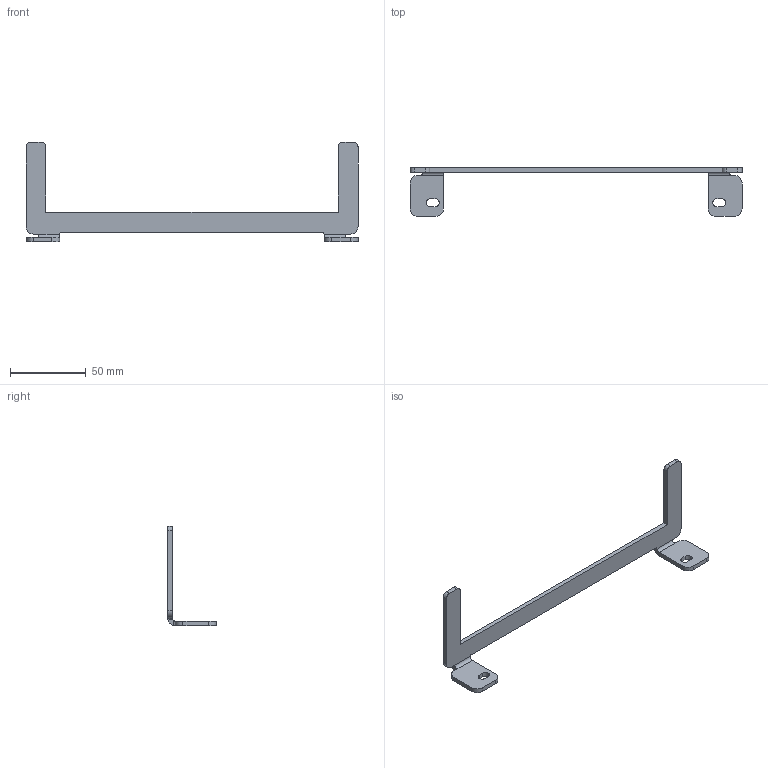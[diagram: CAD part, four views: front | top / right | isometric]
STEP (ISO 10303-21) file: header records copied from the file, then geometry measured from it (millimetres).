
FILE_DESCRIPTION (( 'STEP AP203' ), '1' );
FILE_NAME ('8A2000-KDM-G.STEP', '2020-06-19T07:59:22', ( '' ), ( '' ), 'SwSTEP 2.0', 'SolidWorks 2016', '' );
FILE_SCHEMA (( 'CONFIG_CONTROL_DESIGN' ));
Length unit declared in the file: millimetre
Products named in the file (1): 8A2000-KDM-G
Bounding box: 219 x 32 x 65.55 mm (x, y, z)
Volume: 16313.8 mm3; surface area: 13386.1 mm2
Topology: 1 solids, 1 shells, 58 faces, 158 edges, 102 vertices
Faces by surface type: plane 30, cylinder 28
Entity records: 1959 total; most frequent: CARTESIAN_POINT 373, DIRECTION 320, ORIENTED_EDGE 316, EDGE_CURVE 158, AXIS2_PLACEMENT_3D 109, LINE 102, VERTEX_POINT 102, VECTOR 102
